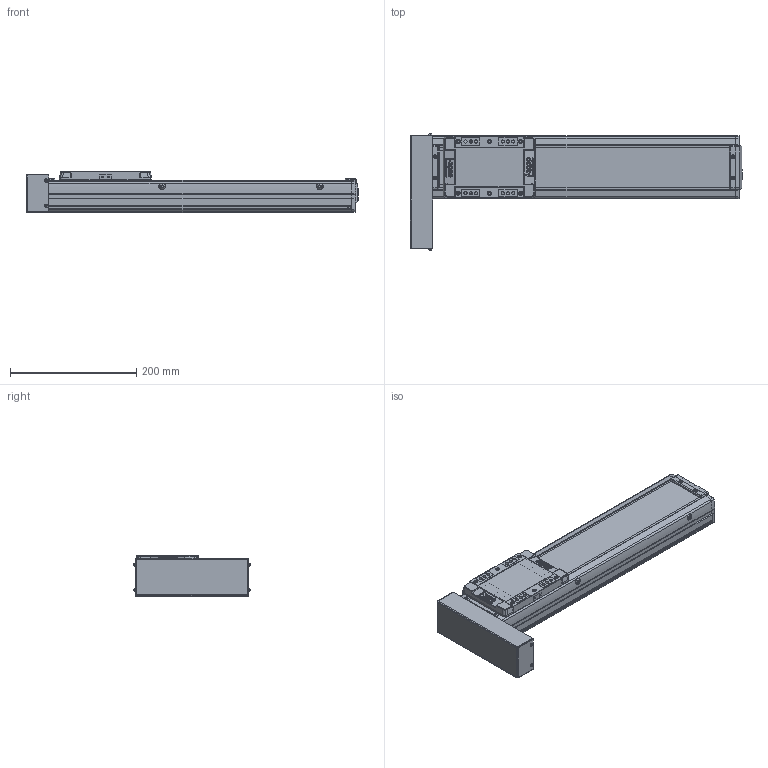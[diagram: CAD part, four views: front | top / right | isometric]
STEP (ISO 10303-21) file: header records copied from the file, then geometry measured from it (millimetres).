
FILE_DESCRIPTION(('STEP AP214'),'1');
FILE_NAME('Z:/Web/3D/SAN100/SAN100 양산용 (STEP)/SAN100ㅁㅁ-300PR.stp','2013-04-25T06:42:05',(' '),(' '),'Spatial InterOp 3D',' ',' ');
FILE_SCHEMA(('automotive_design'));
Length unit declared in the file: millimetre
Products named in the file (31): BTCV-SAN65; BHCS M3 X 6L; SUS COVER; SFX-SAN100; RRCV-SAN100; 스크루 : Round - M4.0 x 10.0; M3.0 x 6.0; 스크루 : Round - M3.0 x 6.0; FRBL-SAN100; SLBL-SAN100; SLCV-SAN100; 스크루 : Countersunk - M3.0 x 6.0; BASE; 스크루 : Round - M5.0 x 6.0
Bounding box: 526.5 x 184.13 x 66 mm (x, y, z)
Volume: 1789480 mm3; surface area: 411322.4 mm2
Topology: 31 solids, 32 shells, 1856 faces, 4840 edges, 3115 vertices
Faces by surface type: plane 927, cylinder 689, cone 162, sphere 44, torus 18, bspline 16
Entity records: 73174 total; most frequent: CARTESIAN_POINT 11084, DIRECTION 10199, ORIENTED_EDGE 9516, EDGE_CURVE 4758, AXIS2_PLACEMENT_3D 3651, VERTEX_POINT 3115, LINE 2897, VECTOR 2897
